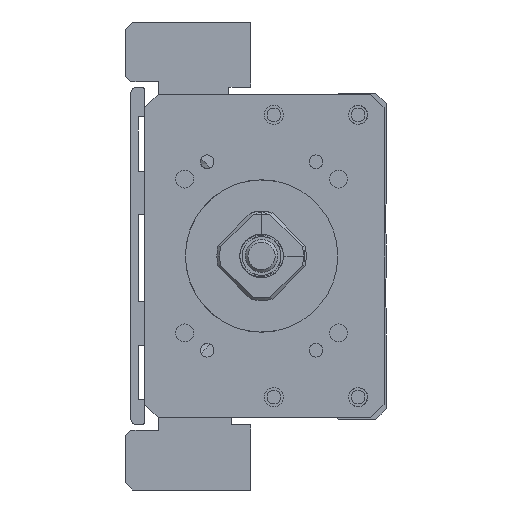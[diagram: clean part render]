
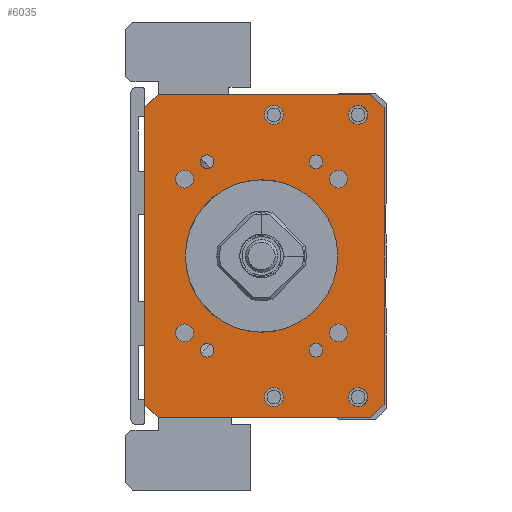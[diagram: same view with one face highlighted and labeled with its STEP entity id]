
A CAD part, left-side view. The second image highlights one B-rep face of the part: STEP entity #6035.
In plain terms, the highlighted planar face has unit normal (-1, 0, 0).
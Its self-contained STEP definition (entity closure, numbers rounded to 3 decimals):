
#4815=FACE_BOUND('',#7857,.T.);
#4816=FACE_BOUND('',#7858,.T.);
#4817=FACE_BOUND('',#7859,.T.);
#4818=FACE_BOUND('',#7860,.T.);
#4819=FACE_BOUND('',#7861,.T.);
#4820=FACE_BOUND('',#7862,.T.);
#4821=FACE_BOUND('',#7863,.T.);
#4822=FACE_BOUND('',#7864,.T.);
#4823=FACE_BOUND('',#7865,.T.);
#4824=FACE_BOUND('',#7866,.T.);
#4825=FACE_BOUND('',#7867,.T.);
#4826=FACE_BOUND('',#7868,.T.);
#4827=FACE_BOUND('',#7869,.T.);
#4828=FACE_BOUND('',#7870,.T.);
#5382=CIRCLE('',#16725,14.);
#5391=CIRCLE('',#16736,1.65);
#5392=CIRCLE('',#16737,1.65);
#5393=CIRCLE('',#16738,1.65);
#5394=CIRCLE('',#16739,1.65);
#5395=CIRCLE('',#16740,1.25);
#5396=CIRCLE('',#16741,1.75);
#5397=CIRCLE('',#16742,1.25);
#5398=CIRCLE('',#16743,1.75);
#5399=CIRCLE('',#16744,1.25);
#5400=CIRCLE('',#16745,1.75);
#5401=CIRCLE('',#16746,1.75);
#5402=CIRCLE('',#16747,1.25);
#6035=ADVANCED_FACE('',(#4815,#4816,#4817,#4818,#4819,#4820,#4821,#4822,
#4823,#4824,#4825,#4826,#4827,#4828),#6563,.F.);
#6563=PLANE('',#16748);
#7857=EDGE_LOOP('',(#10556));
#7858=EDGE_LOOP('',(#10557));
#7859=EDGE_LOOP('',(#10558));
#7860=EDGE_LOOP('',(#10559));
#7861=EDGE_LOOP('',(#10560));
#7862=EDGE_LOOP('',(#10561));
#7863=EDGE_LOOP('',(#10562));
#7864=EDGE_LOOP('',(#10563));
#7865=EDGE_LOOP('',(#10564));
#7866=EDGE_LOOP('',(#10565,#10566,#10567,#10568,#10569,#10570,#10571,#10572));
#7867=EDGE_LOOP('',(#10573));
#7868=EDGE_LOOP('',(#10574));
#7869=EDGE_LOOP('',(#10575));
#7870=EDGE_LOOP('',(#10576));
#10556=ORIENTED_EDGE('',*,*,#13597,.F.);
#10557=ORIENTED_EDGE('',*,*,#13598,.F.);
#10558=ORIENTED_EDGE('',*,*,#13599,.F.);
#10559=ORIENTED_EDGE('',*,*,#13600,.F.);
#10560=ORIENTED_EDGE('',*,*,#13601,.F.);
#10561=ORIENTED_EDGE('',*,*,#13602,.T.);
#10562=ORIENTED_EDGE('',*,*,#13603,.F.);
#10563=ORIENTED_EDGE('',*,*,#13604,.F.);
#10564=ORIENTED_EDGE('',*,*,#13605,.F.);
#10565=ORIENTED_EDGE('',*,*,#13594,.T.);
#10566=ORIENTED_EDGE('',*,*,#13606,.T.);
#10567=ORIENTED_EDGE('',*,*,#13607,.F.);
#10568=ORIENTED_EDGE('',*,*,#13608,.T.);
#10569=ORIENTED_EDGE('',*,*,#13609,.F.);
#10570=ORIENTED_EDGE('',*,*,#13610,.T.);
#10571=ORIENTED_EDGE('',*,*,#13611,.T.);
#10572=ORIENTED_EDGE('',*,*,#13612,.T.);
#10573=ORIENTED_EDGE('',*,*,#13613,.F.);
#10574=ORIENTED_EDGE('',*,*,#13614,.F.);
#10575=ORIENTED_EDGE('',*,*,#13615,.F.);
#10576=ORIENTED_EDGE('',*,*,#13574,.F.);
#12127=VERTEX_POINT('',#23447);
#12147=VERTEX_POINT('',#23507);
#12148=VERTEX_POINT('',#23509);
#12150=VERTEX_POINT('',#23515);
#12151=VERTEX_POINT('',#23517);
#12152=VERTEX_POINT('',#23519);
#12153=VERTEX_POINT('',#23521);
#12154=VERTEX_POINT('',#23523);
#12155=VERTEX_POINT('',#23525);
#12156=VERTEX_POINT('',#23527);
#12157=VERTEX_POINT('',#23529);
#12158=VERTEX_POINT('',#23531);
#12159=VERTEX_POINT('',#23533);
#12160=VERTEX_POINT('',#23535);
#12161=VERTEX_POINT('',#23537);
#12162=VERTEX_POINT('',#23539);
#12163=VERTEX_POINT('',#23541);
#12164=VERTEX_POINT('',#23543);
#12165=VERTEX_POINT('',#23546);
#12166=VERTEX_POINT('',#23548);
#12167=VERTEX_POINT('',#23550);
#13574=EDGE_CURVE('',#12127,#12127,#5382,.T.);
#13594=EDGE_CURVE('',#12148,#12147,#14774,.T.);
#13597=EDGE_CURVE('',#12150,#12150,#5391,.T.);
#13598=EDGE_CURVE('',#12151,#12151,#5392,.T.);
#13599=EDGE_CURVE('',#12152,#12152,#5393,.T.);
#13600=EDGE_CURVE('',#12153,#12153,#5394,.T.);
#13601=EDGE_CURVE('',#12154,#12154,#5395,.T.);
#13602=EDGE_CURVE('',#12155,#12155,#5396,.T.);
#13603=EDGE_CURVE('',#12156,#12156,#5397,.T.);
#13604=EDGE_CURVE('',#12157,#12157,#5398,.T.);
#13605=EDGE_CURVE('',#12158,#12158,#5399,.T.);
#13606=EDGE_CURVE('',#12147,#12159,#14776,.T.);
#13607=EDGE_CURVE('',#12160,#12159,#14777,.T.);
#13608=EDGE_CURVE('',#12160,#12161,#14778,.T.);
#13609=EDGE_CURVE('',#12162,#12161,#14779,.T.);
#13610=EDGE_CURVE('',#12162,#12163,#14780,.T.);
#13611=EDGE_CURVE('',#12163,#12164,#14781,.T.);
#13612=EDGE_CURVE('',#12164,#12148,#14782,.T.);
#13613=EDGE_CURVE('',#12165,#12165,#5400,.T.);
#13614=EDGE_CURVE('',#12166,#12166,#5401,.T.);
#13615=EDGE_CURVE('',#12167,#12167,#5402,.T.);
#14774=LINE('',#23508,#15739);
#14776=LINE('',#23532,#15741);
#14777=LINE('',#23534,#15742);
#14778=LINE('',#23536,#15743);
#14779=LINE('',#23538,#15744);
#14780=LINE('',#23540,#15745);
#14781=LINE('',#23542,#15746);
#14782=LINE('',#23544,#15747);
#15739=VECTOR('',#19569,1.);
#15741=VECTOR('',#19593,1.);
#15742=VECTOR('',#19594,1.);
#15743=VECTOR('',#19595,1.);
#15744=VECTOR('',#19596,1.);
#15745=VECTOR('',#19597,1.);
#15746=VECTOR('',#19598,1.);
#15747=VECTOR('',#19599,1.);
#16725=AXIS2_PLACEMENT_3D('',#23446,#19543,#19544);
#16736=AXIS2_PLACEMENT_3D('',#23514,#19575,#19576);
#16737=AXIS2_PLACEMENT_3D('',#23516,#19577,#19578);
#16738=AXIS2_PLACEMENT_3D('',#23518,#19579,#19580);
#16739=AXIS2_PLACEMENT_3D('',#23520,#19581,#19582);
#16740=AXIS2_PLACEMENT_3D('',#23522,#19583,#19584);
#16741=AXIS2_PLACEMENT_3D('',#23524,#19585,#19586);
#16742=AXIS2_PLACEMENT_3D('',#23526,#19587,#19588);
#16743=AXIS2_PLACEMENT_3D('',#23528,#19589,#19590);
#16744=AXIS2_PLACEMENT_3D('',#23530,#19591,#19592);
#16745=AXIS2_PLACEMENT_3D('',#23545,#19600,#19601);
#16746=AXIS2_PLACEMENT_3D('',#23547,#19602,#19603);
#16747=AXIS2_PLACEMENT_3D('',#23549,#19604,#19605);
#16748=AXIS2_PLACEMENT_3D('',#23551,#19606,#19607);
#19543=DIRECTION('',(-1.,0.,0.));
#19544=DIRECTION('',(0.,1.,0.));
#19569=DIRECTION('',(0.,0.,-1.));
#19575=DIRECTION('',(-1.,0.,0.));
#19576=DIRECTION('',(0.,0.,1.));
#19577=DIRECTION('',(-1.,0.,0.));
#19578=DIRECTION('',(0.,0.,1.));
#19579=DIRECTION('',(-1.,0.,0.));
#19580=DIRECTION('',(0.,0.,1.));
#19581=DIRECTION('',(-1.,0.,0.));
#19582=DIRECTION('',(0.,0.,1.));
#19583=DIRECTION('',(-1.,0.,0.));
#19584=DIRECTION('',(0.,1.,0.));
#19585=DIRECTION('',(1.,0.,0.));
#19586=DIRECTION('',(0.,0.,1.));
#19587=DIRECTION('',(-1.,0.,0.));
#19588=DIRECTION('',(0.,1.,0.));
#19589=DIRECTION('',(-1.,0.,0.));
#19590=DIRECTION('',(0.,0.,1.));
#19591=DIRECTION('',(-1.,0.,0.));
#19592=DIRECTION('',(0.,1.,0.));
#19593=DIRECTION('',(0.,-0.707,-0.707));
#19594=DIRECTION('',(0.,1.,0.));
#19595=DIRECTION('',(0.,-0.707,0.707));
#19596=DIRECTION('',(0.,0.,-1.));
#19597=DIRECTION('',(0.,0.707,0.707));
#19598=DIRECTION('',(0.,1.,0.));
#19599=DIRECTION('',(0.,0.707,-0.707));
#19600=DIRECTION('',(-1.,0.,0.));
#19601=DIRECTION('',(0.,0.,1.));
#19602=DIRECTION('',(-1.,0.,0.));
#19603=DIRECTION('',(0.,0.,1.));
#19604=DIRECTION('',(-1.,0.,0.));
#19605=DIRECTION('',(0.,1.,0.));
#19606=DIRECTION('',(1.,0.,0.));
#19607=DIRECTION('',(0.,1.,0.));
#23446=CARTESIAN_POINT('',(-211.,0.,-300.));
#23447=CARTESIAN_POINT('',(-211.,14.,-300.));
#23507=CARTESIAN_POINT('',(-211.,21.499,-327.25));
#23508=CARTESIAN_POINT('',(-211.,21.499,-270.25));
#23509=CARTESIAN_POINT('',(-211.,21.499,-272.75));
#23514=CARTESIAN_POINT('',(-211.,14.142,-285.858));
#23515=CARTESIAN_POINT('',(-211.,14.142,-284.208));
#23516=CARTESIAN_POINT('',(-211.,-14.142,-285.858));
#23517=CARTESIAN_POINT('',(-211.,-14.142,-284.208));
#23518=CARTESIAN_POINT('',(-211.,14.142,-314.142));
#23519=CARTESIAN_POINT('',(-211.,14.142,-312.492));
#23520=CARTESIAN_POINT('',(-211.,-14.142,-314.142));
#23521=CARTESIAN_POINT('',(-211.,-14.142,-312.492));
#23522=CARTESIAN_POINT('',(-211.,-10.,-317.321));
#23523=CARTESIAN_POINT('',(-211.,-8.75,-317.321));
#23524=CARTESIAN_POINT('',(-211.,-2.25,-325.936));
#23525=CARTESIAN_POINT('',(-211.,-2.25,-324.186));
#23526=CARTESIAN_POINT('',(-211.,10.,-282.679));
#23527=CARTESIAN_POINT('',(-211.,11.25,-282.679));
#23528=CARTESIAN_POINT('',(-211.,-2.25,-274.064));
#23529=CARTESIAN_POINT('',(-211.,-2.25,-272.314));
#23530=CARTESIAN_POINT('',(-211.,10.,-317.321));
#23531=CARTESIAN_POINT('',(-211.,11.25,-317.321));
#23532=CARTESIAN_POINT('',(-211.,18.999,-329.75));
#23533=CARTESIAN_POINT('',(-211.,18.999,-329.75));
#23534=CARTESIAN_POINT('',(-211.,-22.501,-329.75));
#23535=CARTESIAN_POINT('',(-211.,-20.001,-329.75));
#23536=CARTESIAN_POINT('',(-211.,-22.501,-327.25));
#23537=CARTESIAN_POINT('',(-211.,-22.501,-327.25));
#23538=CARTESIAN_POINT('',(-211.,-22.501,-270.25));
#23539=CARTESIAN_POINT('',(-211.,-22.501,-272.75));
#23540=CARTESIAN_POINT('',(-211.,-22.501,-272.75));
#23541=CARTESIAN_POINT('',(-211.,-20.001,-270.25));
#23542=CARTESIAN_POINT('',(-211.,-22.501,-270.25));
#23543=CARTESIAN_POINT('',(-211.,18.999,-270.25));
#23544=CARTESIAN_POINT('',(-211.,18.999,-270.25));
#23545=CARTESIAN_POINT('',(-211.,-17.75,-274.064));
#23546=CARTESIAN_POINT('',(-211.,-17.75,-272.314));
#23547=CARTESIAN_POINT('',(-211.,-17.75,-325.936));
#23548=CARTESIAN_POINT('',(-211.,-17.75,-324.186));
#23549=CARTESIAN_POINT('',(-211.,-10.,-282.679));
#23550=CARTESIAN_POINT('',(-211.,-8.75,-282.679));
#23551=CARTESIAN_POINT('',(-211.,-22.501,-270.25));
